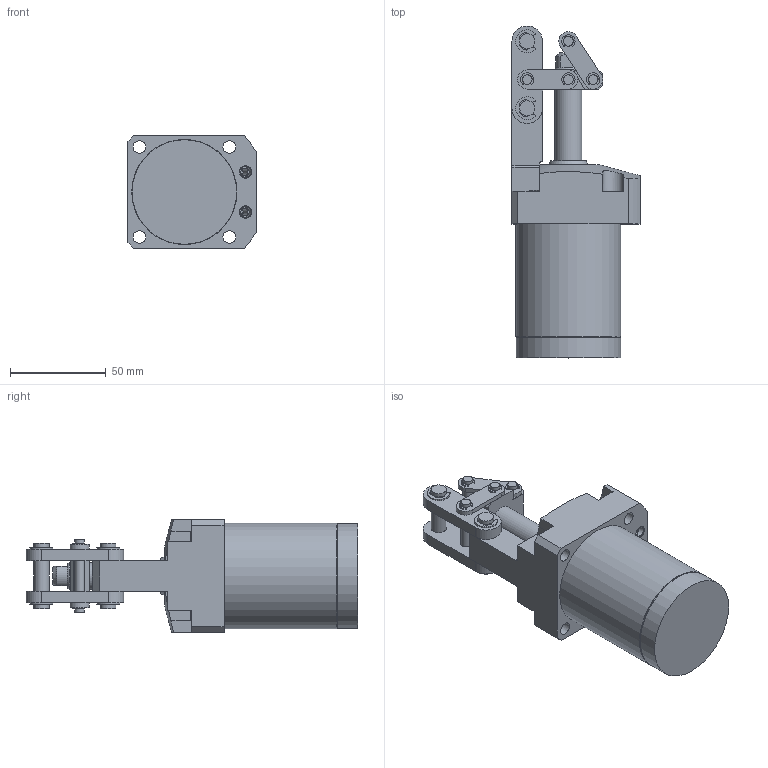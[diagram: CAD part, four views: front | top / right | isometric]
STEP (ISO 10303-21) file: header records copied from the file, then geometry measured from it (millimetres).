
FILE_DESCRIPTION( ( '' ), '1' );
FILE_NAME( 'W:/Catalogue/JLF5H/JLF5H34-38G/JLF5H34-38G.stp', '2008-05-26T02:37:18', ( '機械事業部産業機器グループ' ), ( '豊和工業株式会社' ), 'XStep 1.0', ' ', ' ' );
FILE_SCHEMA( ( 'CONFIG_CONTROL_DESIGN' ) );
Length unit declared in the file: millimetre
Products named in the file (7): Assem1; 1; 2; 3; 4; 5; 6
Bounding box: 67 x 173.5 x 59 mm (x, y, z)
Volume: 542488.5 mm3; surface area: 125969.9 mm2
Topology: 13 solids, 17 shells, 928 faces, 2391 edges, 1589 vertices
Faces by surface type: plane 508, cylinder 386, cone 32, torus 2
Full cylindrical faces by diameter (mm): 2 x2, 3 x16, 4 x4, 4.2 x2, 5 x32, 5.5 x6, 6 x8, 6.5 x4, 6.6 x8, 8 x14, 8.3 x4, 14 x6, 16 x2, 20 x2, 24 x4, 34 x4, 54 x2, 54.7 x2, 55 x2
Entity records: 13899 total; most frequent: CARTESIAN_POINT 2556, DIRECTION 2421, ORIENTED_EDGE 2110, EDGE_CURVE 1055, AXIS2_PLACEMENT_3D 927, VERTEX_POINT 742, EDGE_LOOP 609, LINE 567
